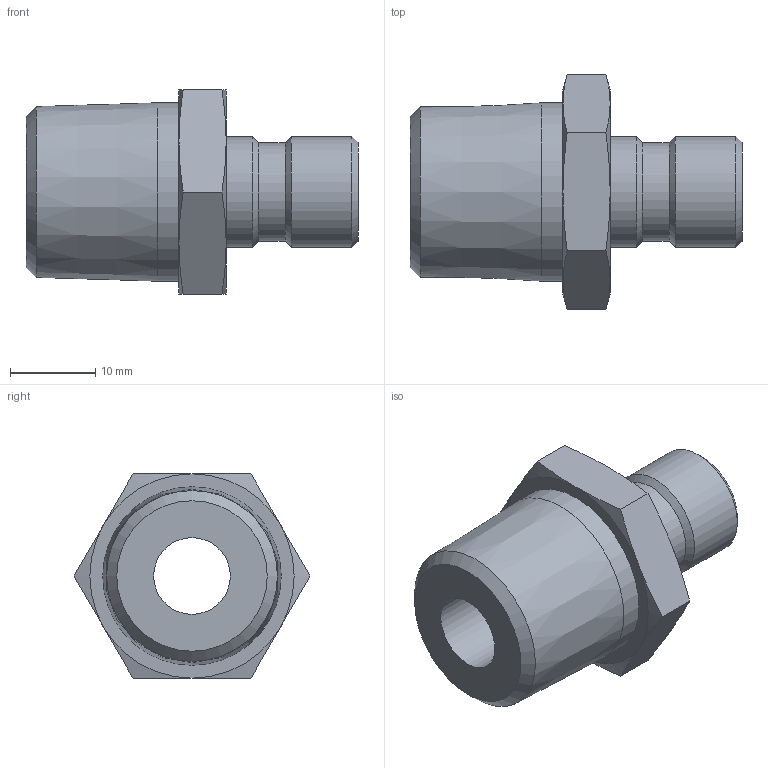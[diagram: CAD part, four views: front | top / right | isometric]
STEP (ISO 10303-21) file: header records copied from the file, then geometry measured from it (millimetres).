
FILE_DESCRIPTION(/* description */ ('STEP AP214'),/* implementation_level */ '2;1');
FILE_NAME(/* name */ 'N912A',/* time_stamp */ '2024-12-19T09:29:50+01:00',/* author */ ('License CC BY-ND 4.0'),/* organization */ ('CADENAS'),/* preprocessor_version */ 'ST-DEVELOPER v19.3',/* originating_system */ 'PARTsolutions',/* authorisation */ ' ');
FILE_SCHEMA (('AUTOMOTIVE_DESIGN {1 0 10303 214 3 1 1}'));
Length unit declared in the file: millimetre
Products named in the file (1): N912A
Bounding box: 39 x 27.71 x 24 mm (x, y, z)
Volume: 8119.2 mm3; surface area: 4114 mm2
Topology: 1 solids, 1 shells, 32 faces, 65 edges, 37 vertices
Faces by surface type: cone 17, plane 10, cylinder 5
Full cylindrical faces by diameter (mm): 9 x1, 11.56 x1, 13 x2, 20.955 x1
Entity records: 830 total; most frequent: CARTESIAN_POINT 197, DIRECTION 122, ORIENTED_EDGE 110, AXIS2_PLACEMENT_3D 58, EDGE_CURVE 55, EDGE_LOOP 46, FACE_BOUND 46, VERTEX_POINT 37
